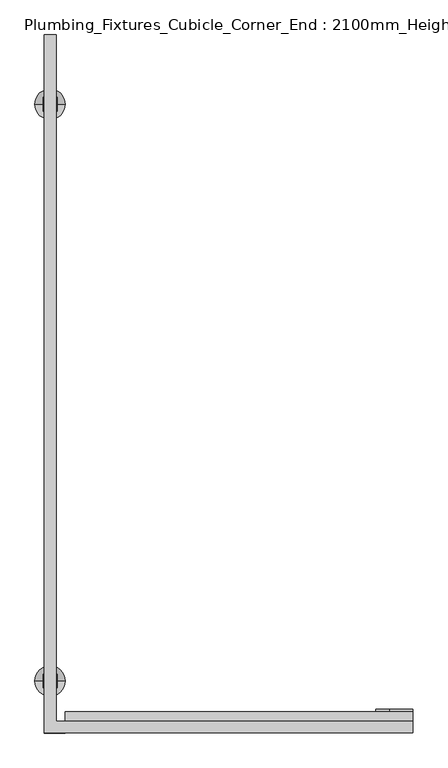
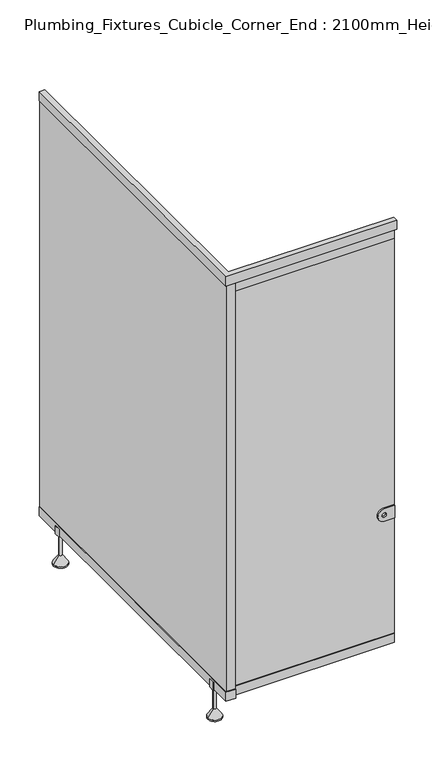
"""IFC4 building model written with IfcOpenShell, lengths in millimetres: flow terminal geometry, Plumbing_Fixtures_Cubicle_Corner_End : 2100mm_Height."""

from ifc_helpers import new_model, si_unit, point, frame, frame_2d, origin, place, context, project, spatial, polyline, circle_curve, trimmed, segment, composite_curve, outline, extrude, source, transform, mapped, element, save
from ifc_brep_helpers import plane_surface, cylinder_surface, revolved_surface, advanced_brep


def plumbing_fixtures_cubicle_corner_end_2100mm_height_8010d271(model_context):
    return source(origin(), model_context, "Body", "SolidModel", [
        extrude(outline(composite_curve([segment(polyline([(770.0, 315.4831277), (770.0, 365.4310706), (830.1827358, 365.4310706), (830.1827358, 315.4831277)]), True, "CONTINUOUS"), segment(trimmed(circle_curve(frame_2d((800.0913679, 315.4831277)), 30.0913679), [point((830.1827358, 315.4831277))], [point((770.0, 315.4831277))], False, "CARTESIAN"), True, "CONTINUOUS")], self_intersect=False), holes=[composite_curve([segment(trimmed(circle_curve(frame_2d((800.0913679, 315.4831277)), 10.0), [point((800.0913679, 305.4831277))], [point((800.0913679, 325.4831277))], True, "CARTESIAN"), True, "CONTINUOUS"), segment(trimmed(circle_curve(frame_2d((800.0913679, 315.4831277)), 10.0), [point((800.0913679, 325.4831277))], [point((800.0913679, 305.4831277))], True, "CARTESIAN"), True, "CONTINUOUS")], self_intersect=False)]), frame((0.0, -1798.0, 0.0), z_axis=(0.0, 1.0, 0.0), x_axis=(0.0, 0.0, 1.0)), (0.0, 0.0, 1.0), 36.0),
        extrude(outline(polyline([(365.4310706, -1790.0), (-389.5689294, -1790.0), (-389.5689294, -1770.0), (365.4310706, -1770.0), (365.4310706, -1790.0)])), frame((0.0, 0.0, 195.0), z_axis=(0.0, 0.0, 1.0), x_axis=(1.0, 0.0, 0.0)), (0.0, 0.0, 1.0), 1955.0),
        extrude(outline(polyline([(365.4310706, -1767.0), (365.4310706, -1793.0), (-389.5689294, -1793.0), (-389.5689294, -1767.0), (365.4310706, -1767.0)])), frame((0.0, 0.0, 2150.0), z_axis=(0.0, 0.0, 1.0), x_axis=(1.0, 0.0, 0.0)), (0.0, 0.0, 1.0), 45.0),
        extrude(outline(polyline([(365.4310706, -1767.0), (365.4310706, -1793.0), (-389.5689294, -1793.0), (-389.5689294, -1767.0), (365.4310706, -1767.0)])), frame((0.0, 0.0, 150.0), z_axis=(0.0, 0.0, 1.0), x_axis=(1.0, 0.0, 0.0)), (0.0, 0.0, 1.0), 45.0),
        extrude(outline(polyline([(145.0, -437.0689294), (145.0, -407.0689294), (185.0, -407.0689294), (185.0, -412.0689294), (150.0, -412.0689294), (150.0, -432.0689294), (185.0, -432.0689294), (185.0, -437.0689294), (145.0, -437.0689294)])), frame((0.0, -1715.0, 0.0), z_axis=(0.0, 1.0, 0.0), x_axis=(0.0, 0.0, 1.0)), (0.0, 0.0, 1.0), 30.0),
        advanced_brep(
        [(-389.125872, -1700.0, 7.2339182), (-455.0119869, -1700.0, 7.2339182), (-429.5689294, -1700.0, 43.57037), (-414.5689294, -1700.0, 43.57037), (-389.125872, -1700.0, 0.0), (-455.0119869, -1700.0, 0.0), (-422.0689294, -1700.0, 0.0), (-414.5689294, -1700.0, 145.0), (-429.5689294, -1700.0, 145.0), (-422.0689294, -1700.0, 145.0)],
        [
            (0, 1, circle_curve(frame((-422.0689294, -1700.0, 7.2339182), z_axis=(0.0, 0.0, 1.0), x_axis=(-1.0, 0.0, 0.0)), 32.9430575)),
            (1, 2),
            (2, 3, circle_curve(frame((-422.0689294, -1700.0, 43.57037), z_axis=(0.0, 0.0, -1.0), x_axis=(-1.0, 0.0, 0.0)), 7.5)),
            (3, 0),
            (1, 0, circle_curve(frame((-422.0689294, -1700.0, 7.2339182), z_axis=(0.0, 0.0, 1.0), x_axis=(-1.0, 0.0, 0.0)), 32.9430575)),
            (3, 2, circle_curve(frame((-422.0689294, -1700.0, 43.57037), z_axis=(0.0, 0.0, -1.0), x_axis=(-1.0, 0.0, 0.0)), 7.5)),
            (4, 5, circle_curve(frame((-422.0689294, -1700.0, 0.0), z_axis=(0.0, 0.0, 1.0), x_axis=(-1.0, 0.0, 0.0)), 32.9430575)),
            (5, 1),
            (0, 4),
            (5, 4, circle_curve(frame((-422.0689294, -1700.0, 0.0), z_axis=(0.0, 0.0, 1.0), x_axis=(-1.0, 0.0, 0.0)), 32.9430575)),
            (6, 5),
            (4, 6),
            (7, 8, circle_curve(frame((-422.0689294, -1700.0, 145.0), z_axis=(0.0, 0.0, 1.0), x_axis=(-1.0, 0.0, 0.0)), 7.5)),
            (8, 9),
            (9, 7),
            (8, 7, circle_curve(frame((-422.0689294, -1700.0, 145.0), z_axis=(0.0, 0.0, 1.0), x_axis=(-1.0, 0.0, 0.0)), 7.5)),
            (2, 8),
            (7, 3),
        ],
        [
            revolved_surface(polyline([(-429.5689294, -1700.0, 43.57037), (-455.0119869, -1700.0, 7.2339182)]), (-422.0689294, -1700.0, -60.0), (0.0, 0.0, -1.0)),
            cylinder_surface(frame((-422.0689294, -1700.0, -60.0), z_axis=(0.0, 0.0, -1.0), x_axis=(-1.0, 0.0, 0.0)), 32.9430575),
            plane_surface(frame((-422.0689294, -1700.0, 0.0), z_axis=(0.0, 0.0, -1.0), x_axis=(-1.0, 0.0, 0.0))),
            plane_surface(frame((-422.0689294, -1700.0, 145.0), z_axis=(0.0, 0.0, 1.0), x_axis=(-1.0, 0.0, 0.0))),
            cylinder_surface(frame((-422.0689294, -1700.0, -60.0), z_axis=(0.0, 0.0, -1.0), x_axis=(-1.0, 0.0, 0.0)), 7.5),
        ],
        [
            (0, [[1, 2, 3, 4]]),
            (0, [[5, -4, 6, -2]]),
            (1, [[7, 8, -1, 9]]),
            (1, [[10, -9, -5, -8]]),
            (2, [[11, -7, 12]]),
            (2, [[-12, -10, -11]]),
            (3, [[13, 14, 15]]),
            (3, [[16, -15, -14]]),
            (4, [[-3, 17, -13, 18]]),
            (4, [[-6, -18, -16, -17]]),
        ],
    ),
        extrude(outline(polyline([(145.0, -437.0689294), (145.0, -407.0689294), (185.0, -407.0689294), (185.0, -412.0689294), (150.0, -412.0689294), (150.0, -432.0689294), (185.0, -432.0689294), (185.0, -437.0689294), (145.0, -437.0689294)])), frame((0.0, -465.0, 0.0), z_axis=(0.0, 1.0, 0.0), x_axis=(0.0, 0.0, 1.0)), (0.0, 0.0, 1.0), 30.0),
        advanced_brep(
        [(-389.125872, -450.0, 7.2339182), (-455.0119869, -450.0, 7.2339182), (-429.5689294, -450.0, 43.57037), (-414.5689294, -450.0, 43.57037), (-389.125872, -450.0, 0.0), (-455.0119869, -450.0, 0.0), (-422.0689294, -450.0, 0.0), (-414.5689294, -450.0, 145.0), (-429.5689294, -450.0, 145.0), (-422.0689294, -450.0, 145.0)],
        [
            (0, 1, circle_curve(frame((-422.0689294, -450.0, 7.2339182), z_axis=(0.0, 0.0, 1.0), x_axis=(-1.0, 0.0, 0.0)), 32.9430575)),
            (1, 2),
            (2, 3, circle_curve(frame((-422.0689294, -450.0, 43.57037), z_axis=(0.0, 0.0, -1.0), x_axis=(-1.0, 0.0, 0.0)), 7.5)),
            (3, 0),
            (1, 0, circle_curve(frame((-422.0689294, -450.0, 7.2339182), z_axis=(0.0, 0.0, 1.0), x_axis=(-1.0, 0.0, 0.0)), 32.9430575)),
            (3, 2, circle_curve(frame((-422.0689294, -450.0, 43.57037), z_axis=(0.0, 0.0, -1.0), x_axis=(-1.0, 0.0, 0.0)), 7.5)),
            (4, 5, circle_curve(frame((-422.0689294, -450.0, 0.0), z_axis=(0.0, 0.0, 1.0), x_axis=(-1.0, 0.0, 0.0)), 32.9430575)),
            (5, 1),
            (0, 4),
            (5, 4, circle_curve(frame((-422.0689294, -450.0, 0.0), z_axis=(0.0, 0.0, 1.0), x_axis=(-1.0, 0.0, 0.0)), 32.9430575)),
            (6, 5),
            (4, 6),
            (7, 8, circle_curve(frame((-422.0689294, -450.0, 145.0), z_axis=(0.0, 0.0, 1.0), x_axis=(-1.0, 0.0, 0.0)), 7.5)),
            (8, 9),
            (9, 7),
            (8, 7, circle_curve(frame((-422.0689294, -450.0, 145.0), z_axis=(0.0, 0.0, 1.0), x_axis=(-1.0, 0.0, 0.0)), 7.5)),
            (2, 8),
            (7, 3),
        ],
        [
            revolved_surface(polyline([(-429.5689294, -450.0, 43.57037), (-455.0119869, -450.0, 7.2339182)]), (-422.0689294, -450.0, -60.0), (0.0, 0.0, -1.0)),
            cylinder_surface(frame((-422.0689294, -450.0, -60.0), z_axis=(0.0, 0.0, -1.0), x_axis=(-1.0, 0.0, 0.0)), 32.9430575),
            plane_surface(frame((-422.0689294, -450.0, 0.0), z_axis=(0.0, 0.0, -1.0), x_axis=(-1.0, 0.0, 0.0))),
            plane_surface(frame((-422.0689294, -450.0, 145.0), z_axis=(0.0, 0.0, 1.0), x_axis=(-1.0, 0.0, 0.0))),
            cylinder_surface(frame((-422.0689294, -450.0, -60.0), z_axis=(0.0, 0.0, -1.0), x_axis=(-1.0, 0.0, 0.0)), 7.5),
        ],
        [
            (0, [[1, 2, 3, 4]]),
            (0, [[5, -4, 6, -2]]),
            (1, [[7, 8, -1, 9]]),
            (1, [[10, -9, -5, -8]]),
            (2, [[11, -7, 12]]),
            (2, [[-12, -10, -11]]),
            (3, [[13, 14, 15]]),
            (3, [[16, -15, -14]]),
            (4, [[-3, 17, -13, 18]]),
            (4, [[-6, -18, -16, -17]]),
        ],
    ),
        extrude(outline(polyline([(-435.0689294, -300.0), (-409.0689294, -300.0), (-409.0689294, -1787.24969), (-389.5689294, -1787.24969), (-389.5689294, -1813.0), (-435.0689294, -1813.0), (-435.0689294, -300.0)])), frame((0.0, 0.0, 150.0), z_axis=(0.0, 0.0, 1.0), x_axis=(1.0, 0.0, 0.0)), (0.0, 0.0, 1.0), 45.0),
        extrude(outline(polyline([(365.4310706, -1813.0), (-435.0689294, -1813.0), (-435.0689294, -300.0), (-409.0689294, -300.0), (-409.0689294, -1787.2947936), (365.4310706, -1787.2947936), (365.4310706, -1813.0)])), frame((0.0, 0.0, 2205.0), z_axis=(0.0, 0.0, 1.0), x_axis=(1.0, 0.0, 0.0)), (0.0, 0.0, 1.0), 45.0),
        extrude(outline(polyline([(-432.0689294, -300.0), (-412.0689294, -300.0), (-412.0689294, -1790.0), (-389.5689294, -1790.0), (-389.5689294, -1810.0), (-432.0689294, -1810.0), (-432.0689294, -300.0)])), frame((0.0, 0.0, 195.0), z_axis=(0.0, 0.0, 1.0), x_axis=(1.0, 0.0, 0.0)), (0.0, 0.0, 1.0), 2010.0),
    ])


if __name__ == "__main__":
    model = new_model("IFC4")
    model_context = context("Model", 3, world=origin())
    ifc_project = project(units=[si_unit("LENGTHUNIT", "METRE", prefix="MILLI")], contexts=[model_context])
    site = spatial("IfcSite", under=ifc_project)
    building = spatial("IfcBuilding", under=site)
    placement = place(None, origin())
    plumbing_fixtures_cubicle_corner_end_2100mm_height_shape = plumbing_fixtures_cubicle_corner_end_2100mm_height_8010d271(model_context)
    element("IfcFlowTerminal", 1, ObjectType="Plumbing_Fixtures_Cubicle_Corner_End : 2100mm_Height", at=placement, inside=building, context=model_context, shape_type="MappedRepresentation", body=[
        mapped(plumbing_fixtures_cubicle_corner_end_2100mm_height_shape, transform((0.0, 0.0, 0.0), x_axis=(1.0, 0.0, 0.0), y_axis=(0.0, 1.0, 0.0), z_axis=(0.0, 0.0, 1.0))),
    ])
    save(model, "model.ifc")
